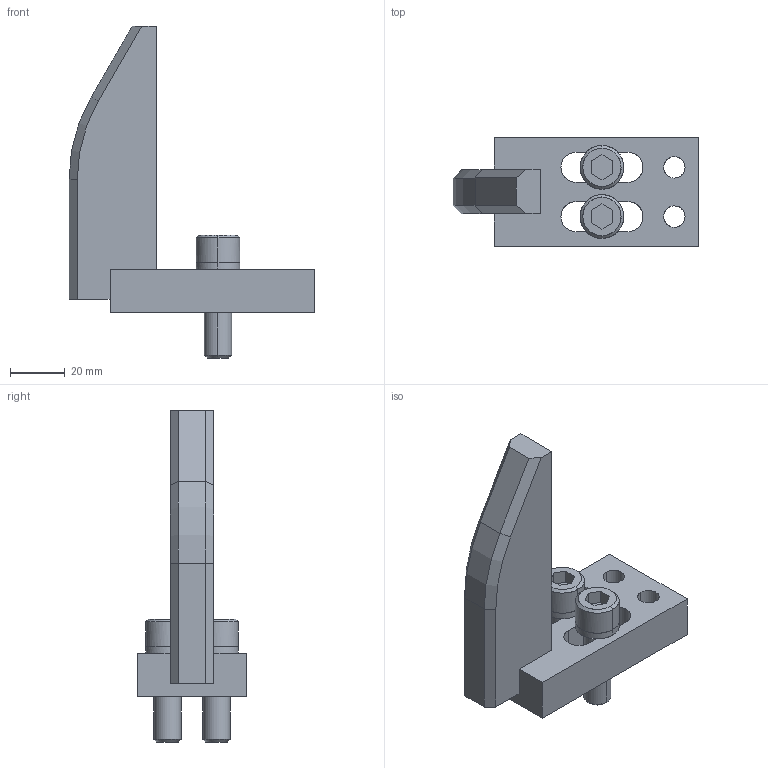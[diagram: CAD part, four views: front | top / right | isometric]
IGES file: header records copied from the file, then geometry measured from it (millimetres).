
Global section: file name: E:\UnigraphicsGraphicData\MISUMI_PRESS-PARTS\IGES\3d_enstc105-40-m10_01435_r00.igs; native system: NX V5.0; preprocessor: UGS NX IGES V5.0; author: MISUMI; date: 20110105.160625; units: millimetre
Bounding box: 90 x 40 x 121.5 mm (x, y, z)
Surface area: 24169.3 mm2 (no closed solid volume)
Topology: 0 solids, 0 shells, 80 faces, 518 edges, 518 vertices
Faces by surface type: bspline 80
